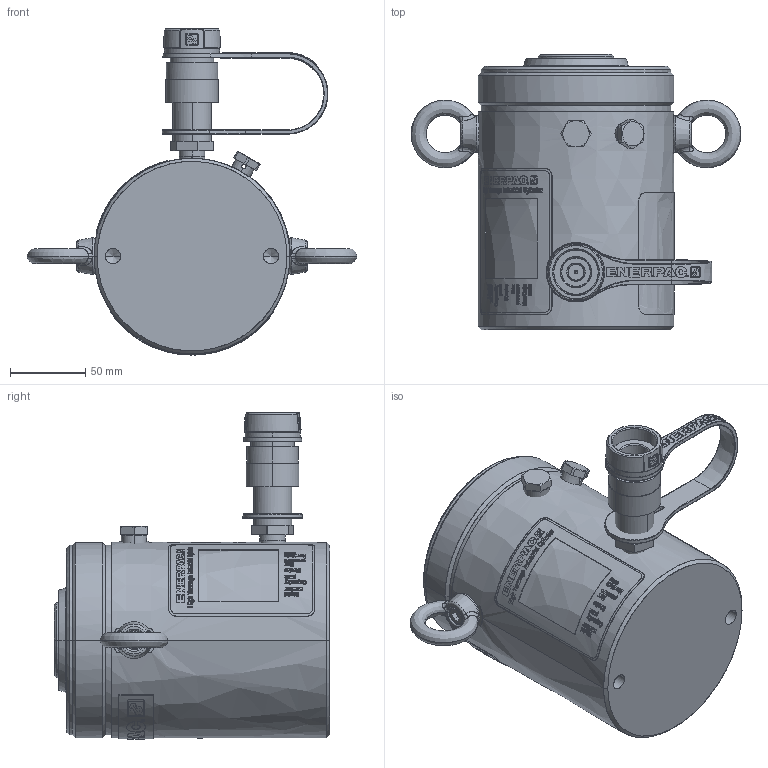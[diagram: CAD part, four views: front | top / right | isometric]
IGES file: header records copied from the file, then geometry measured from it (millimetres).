
Start section:  PTC IGES file: hcg502.igs
Global section: file name: hcg502.igs; native system: Creo Parametric by PTC Inc.; preprocessor: 2015290; author: Akhilesh.Subrahmanya; organization: Unknown; date: 20170720.103310; units: millimetre
Bounding box: 218.99 x 183 x 216.57 mm (x, y, z)
Surface area: 243263.7 mm2 (no closed solid volume)
Topology: 0 solids, 0 shells, 907 faces, 7140 edges, 7127 vertices
Faces by surface type: revolution 455, bspline 428, extrusion 24
